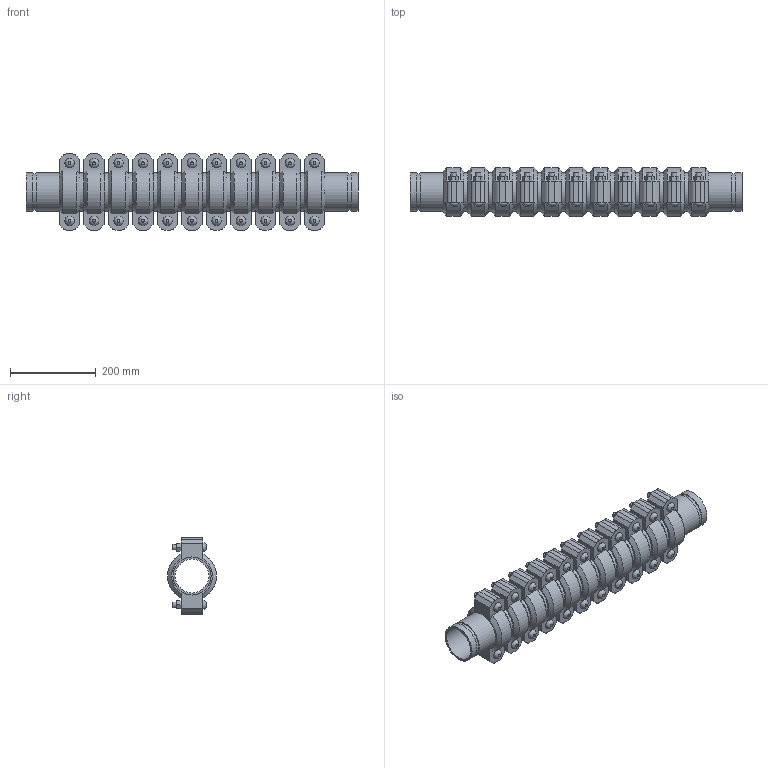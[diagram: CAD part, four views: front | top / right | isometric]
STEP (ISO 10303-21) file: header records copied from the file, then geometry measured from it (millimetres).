
FILE_DESCRIPTION(/* description */ ('VIC EXPANSION JOINT 11 COUPLINGS COMPRESSED STYLE 155 (OGS)','CAx-IF Rec.Pracs.---Representation and Presentation of Product Manufacturing Information (PMI)---4.0---2014-10-13'),/* implementation_level */ '2;1');
FILE_NAME(/* name */ 'C:\Users\kkamble\AppData\Roaming\Autodesk\ApplicationPlugins\Victaulic.Temp\A956\Victaulic_IPS_Expansion Joint_Compressed_11 Couplings_Style 155 (OGS)_3 (80).stp',/* time_stamp */ '2021-06-27T00:18:59+02:00',/* author */ ('kkamble'),/* organization */ ('Victaulic'),/* preprocessor_version */ 'ST-DEVELOPER v17.2',/* originating_system */ 'Autodesk Inventor 2019',/* authorisation */ '');
FILE_SCHEMA (('AP242_MANAGED_MODEL_BASED_3D_ENGINEERING_MIM_LF { 1 0 10303 442 1 1 4 }'));
Length unit declared in the file: inch
Products named in the file (4): 155-03.0; Nipple-03.0; Nipple-03.0_1; 075-03.0
Assembly tree (23 placements, depth 2):
  155-03.0
    Nipple-03.0  x2
    Nipple-03.0_1  x10
    075-03.0  x11
Bounding box: 774.7 x 113.88 x 177.8 mm (x, y, z)
Volume: 4528924.1 mm3; surface area: 1116123.5 mm2
Topology: 23 solids, 45 shells, 727 faces, 1757 edges, 1234 vertices
Faces by surface type: plane 446, cylinder 215, cone 44, bspline 22
Full cylindrical faces by diameter (mm): 12.7 x44, 14.605 x22, 79.35 x12, 84.938 x24, 88.9 x47
Entity records: 2803 total; most frequent: CARTESIAN_POINT 493, DIRECTION 471, ORIENTED_EDGE 374, AXIS2_PLACEMENT_3D 190, EDGE_CURVE 187, VERTEX_POINT 134, EDGE_LOOP 101, LINE 91
